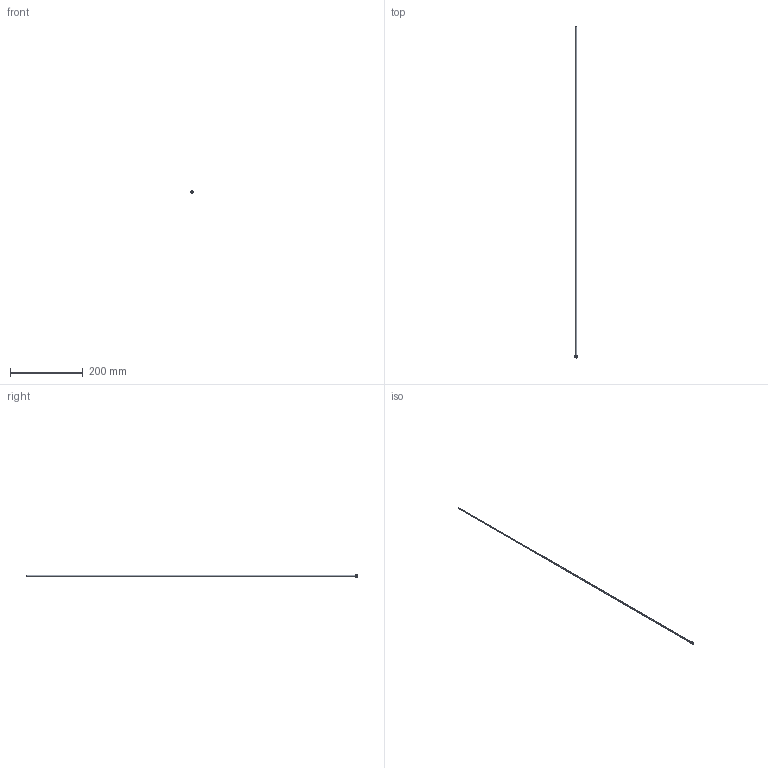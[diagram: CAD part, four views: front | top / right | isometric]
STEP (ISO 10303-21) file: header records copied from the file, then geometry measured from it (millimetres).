
FILE_DESCRIPTION(/* description */ (''),/* implementation_level */ '2;1');
FILE_NAME(/* name */ 'C:/Users/drich/Desktop/JHF125T-36 v1.step',/* time_stamp */ '2020-01-02T20:06:49-06:00',/* author */ (''),/* organization */ (''),/* preprocessor_version */ 'ST-DEVELOPER v18',/* originating_system */ 'Autodesk Translation Framework v8.12.0.6',/* authorisation */ '');
FILE_SCHEMA (('AUTOMOTIVE_DESIGN { 1 0 10303 214 3 1 1 }','INTEGRATED_CNC_SCHEMA'));
Length unit declared in the file: inch
Products named in the file (1): JHF125T-36
Bounding box: 6.4 x 914.4 x 6.4 mm (x, y, z)
Volume: 1879.7 mm3; surface area: 17180.6 mm2
Topology: 1 solids, 1 shells, 10 faces, 24 edges, 18 vertices
Faces by surface type: cylinder 4, plane 4, cone 1, torus 1
Full cylindrical faces by diameter (mm): 2.769 x1, 3.175 x1, 6.269 x1, 6.401 x1
Entity records: 354 total; most frequent: DIRECTION 65, CARTESIAN_POINT 53, ORIENTED_EDGE 48, AXIS2_PLACEMENT_3D 30, EDGE_CURVE 24, CIRCLE 19, VERTEX_POINT 18, EDGE_LOOP 14
